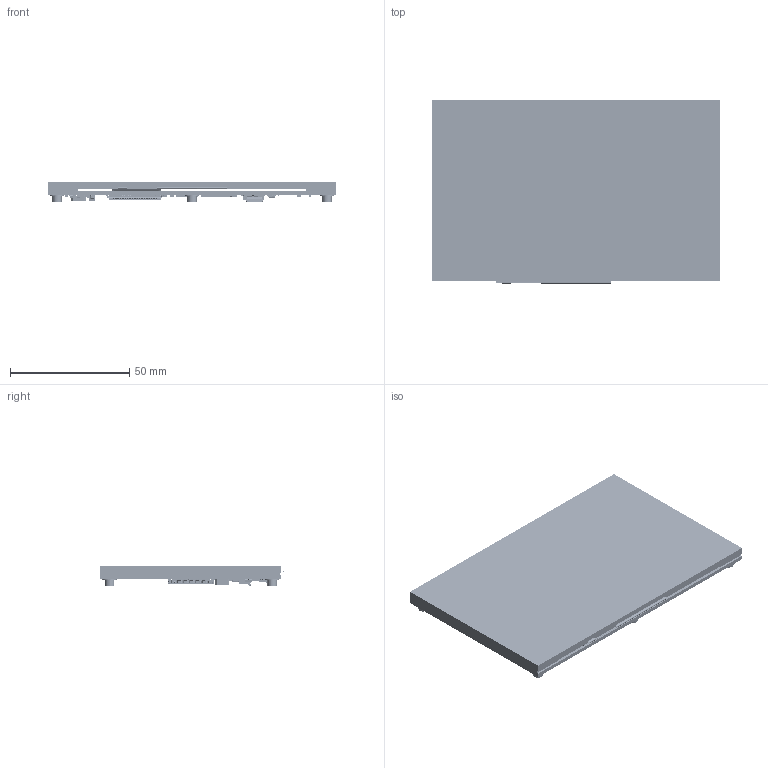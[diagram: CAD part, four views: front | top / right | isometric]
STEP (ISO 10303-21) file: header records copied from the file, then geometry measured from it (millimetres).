
FILE_DESCRIPTION (( 'STEP AP214' ), '1' );
FILE_NAME ('CFA800480E3-050SN.STEP', '2023-03-16T20:56:58', ( '' ), ( '' ), 'SwSTEP 2.0', 'SolidWorks 2021', '' );
FILE_SCHEMA (( 'AUTOMOTIVE_DESIGN' ));
Length unit declared in the file: millimetre
Products named in the file (45): 15032_CAM_CMP-004-000012-1; CS050Z40G-B0; ERJ2R_Family_CAM_03068_SCH-1; 01655_CAM_01655_SCH-1; FP-SOT26_SC74R-MFG_CMP-001-0018-1; ERJ2R_Family_CAM_CMP-005-000028-2; ERJ2R_Family_CAM_03071_SCH-1; CS050Y30T-B0_CAM_CS050Y30T-B0-2; ERJ2R_Family_CAM_CMP-009-00185-2; 00133_CAM_00133_SCH-5; 16110_CAM_00191_SCH-1; clear_1mm_tape; 00133_CAM_CMP-004-000007-1; ERJ2R_Family_CAM_CMP-009-00184-2; 00289_CAM_00289_SCH-1; CFAF800480E1-050SN drawing; ERJ2R_Family_CAM_CMP-005-000027-2; ERJ2R_Family_CAM_CMP-009-00186-2; SOD123-3.65x1.55_CMP-004-00041-1; 01655_CAM_CMP-004-000010-1; FP-CL165-IPC_B_CMP-001-00090-2; ERJ2R_Family_CAM_CMP-009-00179-2; cfa-10100_BOARD; ERJ2R_Family_CAM_CMP-009-00179-1; cfa-10100; ERJ2R_Family_CAM_CMP-005-000029-3; CL05_Footprint_CMP-007-000018-1; CS050Z10G-A0; INDP6060X25N_CMP-007-000033-1; ERJ2R_Family_CAM_CMP-009-00187-1; CFPN_01712; FP-CL313-IPC_B_CMP-001-00085-3; 00289_CAM_CMP-004-000001-1; ERJ2R_Family_CAM_CMP-009-00183-1; FP-DO-214AC-MFG_CMP-004-00040-1; 03064_CAM_03064_SCH-1; CFA800480E3-050SN; 03064_CAM_03063_SCH-1; QFN50P500X500X85_HS-33N_CMP-007-000032-3; QFN50P900X900X80_HS-65N_CMP-007-000016-3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
Assembly tree (90 placements, depth 3):
  CFA800480E3-050SN
    CFAF800480E1-050SN drawing
    cfa-10100
      cfa-10100_BOARD
      FP-CL313-IPC_B_CMP-001-00085-3
      CL05_Footprint_CMP-007-000018-1
      01655_CAM_CMP-004-000010-1  x4
      FA-20H_12.0000MD30Z-K3_CMP-002-00080-3
      SON127P600X80_HS-9N_CMP-002-00081-2
      FP-SOT23-IPC_B_CMP-007-000034-2
      FP-SOT26_SC74R-MFG_CMP-001-0018-1
      QFN50P500X500X85_HS-33N_CMP-007-000032-3
      ERJ2R_Family_CAM_CMP-009-00179-1  x6
      ERJ2R_Family_CAM_CMP-005-000027-2  x5
      ERJ2R_Family_CAM_CMP-009-00183-1
      ERJ2R_Family_CAM_03071_SCH-1
      16110_CAM_00191_SCH-1
      ERJ2R_Family_CAM_03068_SCH-1
      03064_CAM_03063_SCH-1  x2
      03064_CAM_03064_SCH-1
      ERJ2R_Family_CAM_CMP-005-000028-2  x2
      RESC1608X55X30ML15T15_CMP-007-000035-2
      ERJ2R_Family_CAM_CMP-009-00187-1
      ERJ2R_Family_CAM_CMP-009-00186-2
      ERJ2R_Family_CAM_CMP-009-00185-2
      ERJ2R_Family_CAM_CMP-009-00184-2
      ERJ2R_Family_CAM_CMP-005-000029-3  x2
      QFN50P900X900X80_HS-65N_CMP-007-000016-3
      INDP6060X25N_CMP-007-000033-1
      FP-DO-214AC-MFG_CMP-004-00040-1
      00289_CAM_00289_SCH-1  x11
      00133_CAM_00133_SCH-5  x12
      00289_CAM_CMP-004-000001-1
      FP-CL696-IPC_B_CMP-001-00089-1  x2
      00133_CAM_CMP-004-000007-1
      FP-CL165-IPC_B_CMP-001-00090-2  x3
      15032_CAM_CMP-004-000012-1  x2
      01655_CAM_01655_SCH-1
      ERJ2R_Family_CAM_CMP-009-00179-2
      SOD123-3.65x1.55_CMP-004-00041-1
      CS050Y30T-B0_CAM_CS050Y30T-B0-2
    clear_1mm_tape  x2
    CFPN_01712  x6
    CS050Z40G-B0
    CS050Z10G-A0
Bounding box: 120.7 x 76.73 x 8.7 mm (x, y, z)
Volume: 41337.3 mm3; surface area: 49204 mm2
Topology: 428 solids, 543 shells, 16313 faces, 45643 edges, 29711 vertices
Faces by surface type: plane 10587, cylinder 4372, bspline 1110, sphere 224, cone 12, torus 8
Entity records: 582070 total; most frequent: CARTESIAN_POINT 117940, ORIENTED_EDGE 84092, DIRECTION 66659, EDGE_CURVE 42049, LINE 29659, VECTOR 29659, VERTEX_POINT 27368, AXIS2_PLACEMENT_3D 18500
